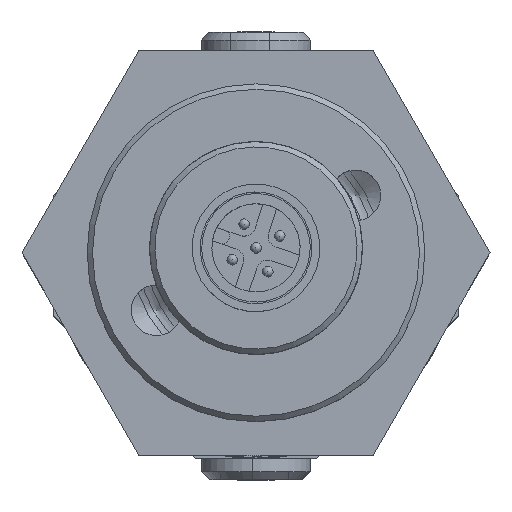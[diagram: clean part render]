
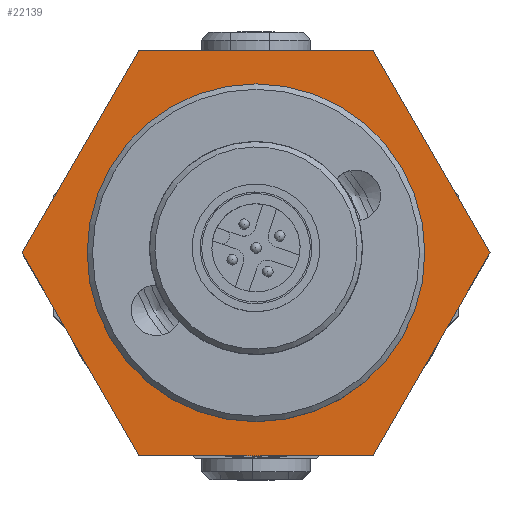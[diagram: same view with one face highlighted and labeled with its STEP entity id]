
A CAD part, top view. The second image highlights one B-rep face of the part: STEP entity #22139.
In plain terms, the highlighted planar face has unit normal (0, 0, 1).
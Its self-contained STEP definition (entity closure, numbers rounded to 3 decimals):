
#2405=LINE($,#94990,#3569);
#2410=LINE($,#95000,#3574);
#2414=LINE($,#95008,#3578);
#2418=LINE($,#95016,#3582);
#2422=LINE($,#95024,#3586);
#2425=LINE($,#95029,#3589);
#3569=VECTOR($,#27762,21.997);
#3574=VECTOR($,#27769,21.997);
#3578=VECTOR($,#27775,21.997);
#3582=VECTOR($,#27781,21.997);
#3586=VECTOR($,#27787,21.997);
#3589=VECTOR($,#27792,21.997);
#4399=PLANE($,#23803);
#4904=FACE_BOUND($,#7640,.T.);
#5990=FACE_OUTER_BOUND($,#7639,.T.);
#7639=EDGE_LOOP($,(#18306,#18307,#18308,#18309,#18310,#18311));
#7640=EDGE_LOOP($,(#18312));
#8469=CIRCLE($,#23712,15.875);
#10183=VERTEX_POINT($,#94770);
#10226=VERTEX_POINT($,#94987);
#10227=VERTEX_POINT($,#94989);
#10231=VERTEX_POINT($,#94998);
#10234=VERTEX_POINT($,#95006);
#10237=VERTEX_POINT($,#95014);
#10240=VERTEX_POINT($,#95022);
#12911=EDGE_CURVE($,#10183,#10183,#8469,.T.);
#12981=EDGE_CURVE($,#10227,#10226,#2405,.T.);
#12986=EDGE_CURVE($,#10226,#10231,#2410,.T.);
#12990=EDGE_CURVE($,#10231,#10234,#2414,.T.);
#12994=EDGE_CURVE($,#10234,#10237,#2418,.T.);
#12998=EDGE_CURVE($,#10237,#10240,#2422,.T.);
#13001=EDGE_CURVE($,#10240,#10227,#2425,.T.);
#18306=ORIENTED_EDGE($,*,*,#12981,.T.);
#18307=ORIENTED_EDGE($,*,*,#12986,.T.);
#18308=ORIENTED_EDGE($,*,*,#12990,.T.);
#18309=ORIENTED_EDGE($,*,*,#12994,.T.);
#18310=ORIENTED_EDGE($,*,*,#12998,.T.);
#18311=ORIENTED_EDGE($,*,*,#13001,.T.);
#18312=ORIENTED_EDGE($,*,*,#12911,.F.);
#22139=ADVANCED_FACE($,(#5990,#4904),#4399,.T.);
#23712=AXIS2_PLACEMENT_3D($,#94771,#27602,#27603);
#23803=AXIS2_PLACEMENT_3D($,#95048,#27816,#27817);
#27602=DIRECTION('center_axis',(0.,0.,1.));
#27603=DIRECTION('ref_axis',(0.866,0.5,0.));
#27762=DIRECTION($,(0.5,0.866,0.));
#27769=DIRECTION($,(-0.5,0.866,0.));
#27775=DIRECTION($,(-1.,0.,0.));
#27781=DIRECTION($,(-0.5,-0.866,0.));
#27787=DIRECTION($,(0.5,-0.866,0.));
#27792=DIRECTION($,(1.,0.,0.));
#27816=DIRECTION('center_axis',(0.,0.,1.));
#27817=DIRECTION('ref_axis',(-1.,0.,0.));
#94770=CARTESIAN_POINT('',(-13.748,-7.938,31.75));
#94771=CARTESIAN_POINT('Origin',(0.,0.,
31.75));
#94987=CARTESIAN_POINT('',(21.997,0.,31.75));
#94989=CARTESIAN_POINT('',(10.999,-19.05,31.75));
#94990=CARTESIAN_POINT($,(21.997,0.,31.75));
#94998=CARTESIAN_POINT('',(10.999,19.05,31.75));
#95000=CARTESIAN_POINT($,(10.999,19.05,31.75));
#95006=CARTESIAN_POINT('',(-10.999,19.05,31.75));
#95008=CARTESIAN_POINT($,(-10.999,19.05,31.75));
#95014=CARTESIAN_POINT('',(-21.997,0.,31.75));
#95016=CARTESIAN_POINT($,(-21.997,0.,31.75));
#95022=CARTESIAN_POINT('',(-10.999,-19.05,31.75));
#95024=CARTESIAN_POINT($,(-10.999,-19.05,31.75));
#95029=CARTESIAN_POINT($,(10.999,-19.05,31.75));
#95048=CARTESIAN_POINT('Origin',(0.,0.,
31.75));
